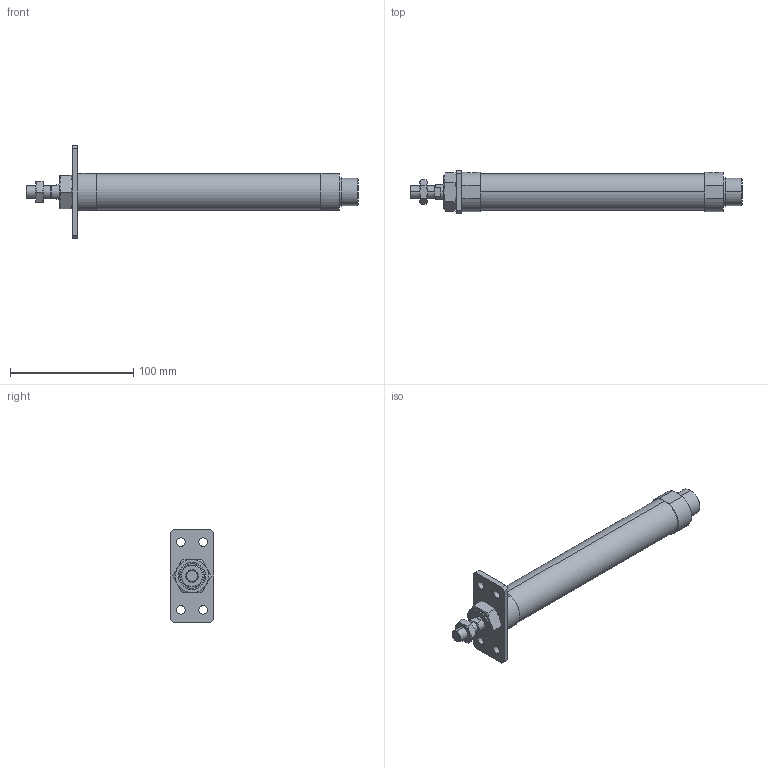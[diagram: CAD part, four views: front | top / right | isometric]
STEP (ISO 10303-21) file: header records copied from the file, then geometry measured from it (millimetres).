
FILE_DESCRIPTION (( 'STEP AP203' ), '1' );
FILE_NAME ('J#2-25-150-A.STEP', '2016-03-08T07:26:38', ( '' ), ( '' ), 'SwSTEP 2.0', 'SolidWorks 2014', '' );
FILE_SCHEMA (( 'CONFIG_CONTROL_DESIGN' ));
Length unit declared in the file: millimetre
Products named in the file (5): J#2-25-A; J#2-25-150; J#2-25-150-A
Assembly tree (4 placements, depth 2):
  J#2-25-150-A
    J#2-25-150
    (unnamed)
    (unnamed)
    J#2-25-A
Bounding box: 269 x 35 x 75 mm (x, y, z)
Volume: 176888.2 mm3; surface area: 34856.4 mm2
Topology: 4 solids, 4 shells, 117 faces, 268 edges, 162 vertices
Faces by surface type: plane 47, cylinder 36, torus 24, cone 10
Entity records: 4123 total; most frequent: CARTESIAN_POINT 990, DIRECTION 558, ORIENTED_EDGE 528, EDGE_CURVE 264, AXIS2_PLACEMENT_3D 226, VERTEX_POINT 162, EDGE_LOOP 138, ADVANCED_FACE 117
